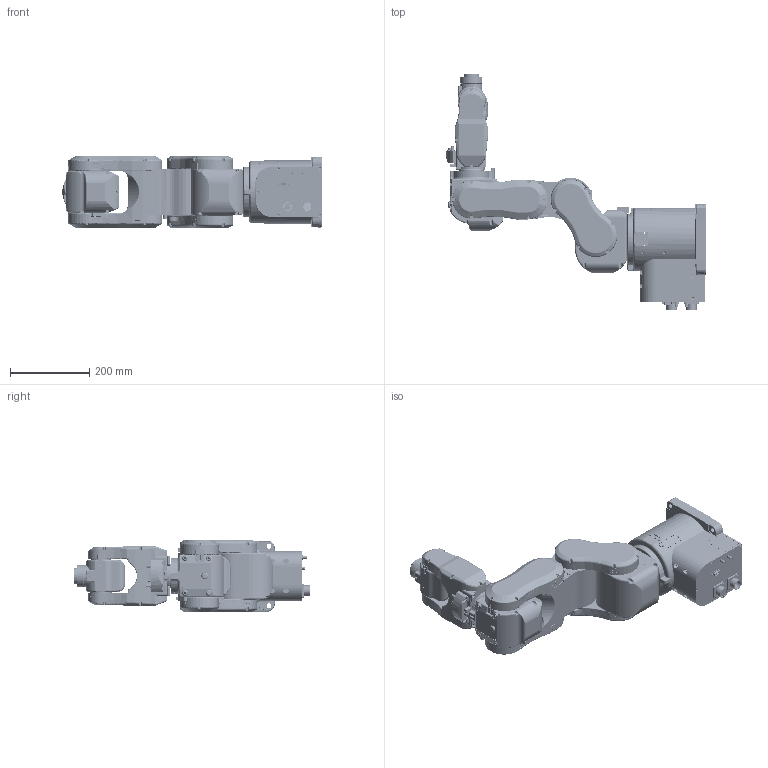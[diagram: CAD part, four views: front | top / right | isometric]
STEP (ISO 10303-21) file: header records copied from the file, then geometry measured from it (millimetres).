
FILE_DESCRIPTION (( 'STEP AP214' ), '1' );
FILE_NAME ('U6-0306-00.STEP', '2020-10-27T06:41:33', ( 'iCura' ), ( 'ICOS' ), 'SwSTEP 2.0', 'SolidWorks 2018', '' );
FILE_SCHEMA (( 'AUTOMOTIVE_DESIGN' ));
Length unit declared in the file: millimetre
Products named in the file (7): U6-0306-4-00; U6-0306-1-00; U6-0306-6-00; U6-0306-5-00; U6-0306-00; U6-0306-3-00; U6-0306-2-00
Assembly tree (6 placements, depth 2):
  U6-0306-00
    U6-0306-1-00
    U6-0306-2-00
    U6-0306-3-00
    U6-0306-4-00
    U6-0306-5-00
    U6-0306-6-00
Bounding box: 654.28 x 594.84 x 180 mm (x, y, z)
Surface area: 1240638.6 mm2 (no closed solid volume)
Topology: 0 solids, 296 shells, 5686 faces, 19387 edges, 13544 vertices
Faces by surface type: cylinder 2430, plane 1385, bspline 686, cone 568, torus 481, sphere 136
Entity records: 321250 total; most frequent: CARTESIAN_POINT 96690, DIRECTION 34558, ORIENTED_EDGE 30747, EDGE_CURVE 18960, AXIS2_PLACEMENT_3D 13646, VERTEX_POINT 13405, CIRCLE 8637, LINE 7266
